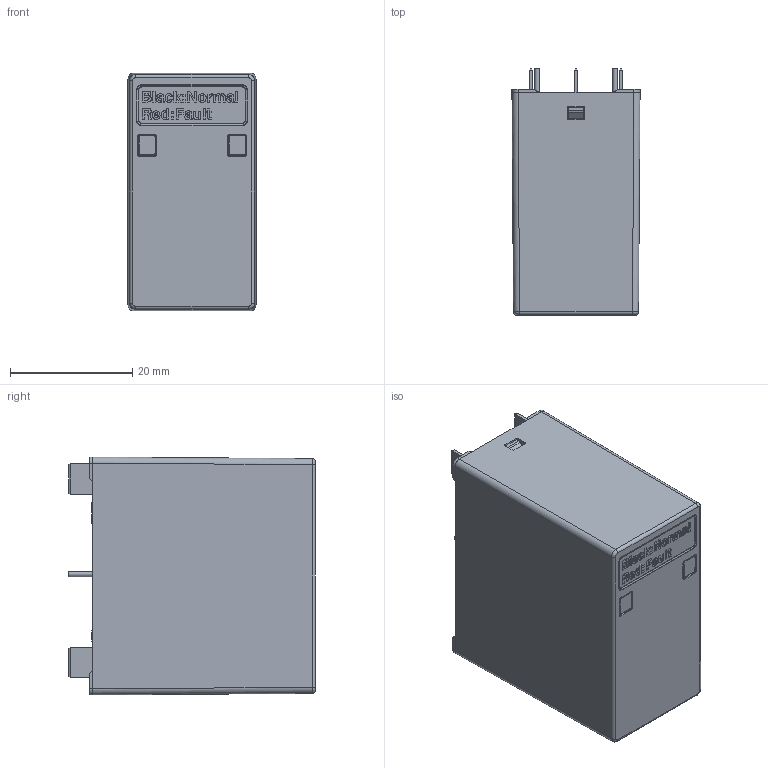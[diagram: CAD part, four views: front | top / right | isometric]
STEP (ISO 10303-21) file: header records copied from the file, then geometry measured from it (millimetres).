
FILE_DESCRIPTION(/* description */ ('Unknown'),/* implementation_level */ '2;1');
FILE_NAME(/* name */ 'SM20M230A203',/* time_stamp */ '2023-04-10T11:40:27+08:00',/* author */ ('Unknown'),/* organization */ ('Unknown'),/* preprocessor_version */ 'ST-DEVELOPER v16.7',/* originating_system */ 'Solid Edge',/* authorisation */ 'Unknown');
FILE_SCHEMA (('AUTOMOTIVE_DESIGN {1 0 10303 214 3 1 1}'));
Products named in the file (1): SM20M230A203
Bounding box: 21 x 40.4 x 39 mm (x, y, z)
Volume: 10870.9 mm3; surface area: 25368.1 mm2
Topology: 13 solids, 13 shells, 3263 faces, 8639 edges, 5465 vertices
Faces by surface type: plane 1633, cylinder 1046, bspline 315, torus 127, cone 87, sphere 55
Full cylindrical faces by diameter (mm): 0.8 x2, 0.9 x2, 1.5 x5, 1.9 x4, 3 x5
Entity records: 111669 total; most frequent: CARTESIAN_POINT 32126, ORIENTED_EDGE 17176, DIRECTION 15834, EDGE_CURVE 8588, VERTEX_POINT 5445, LINE 5420, VECTOR 5420, AXIS2_PLACEMENT_3D 5207
